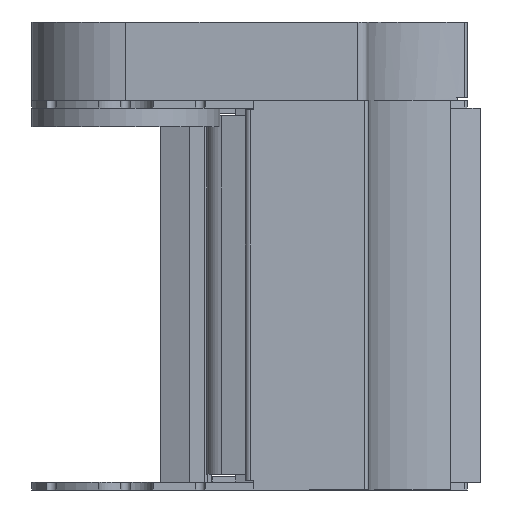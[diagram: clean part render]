
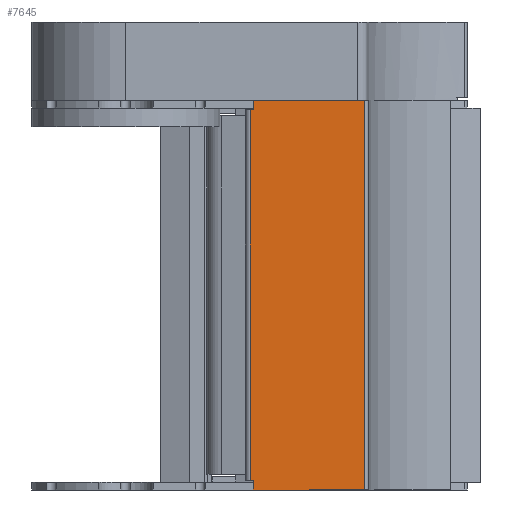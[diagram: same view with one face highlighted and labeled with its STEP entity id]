
A CAD part, front view. The second image highlights one B-rep face of the part: STEP entity #7645.
In plain terms, the highlighted planar face has unit normal (0, -1, 0).
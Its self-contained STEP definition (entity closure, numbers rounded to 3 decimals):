
#153 = EDGE_CURVE ( 'NONE', #2433, #10916, #3637, .T. ) ;
#221 = ORIENTED_EDGE ( 'NONE', *, *, #5271, .F. ) ;
#455 = VERTEX_POINT ( 'NONE', #1200 ) ;
#779 = DIRECTION ( 'NONE',  ( 0., -1., 0. ) ) ;
#1200 = CARTESIAN_POINT ( 'NONE',  ( -33.721, -61., 124.5 ) ) ;
#1232 = DIRECTION ( 'NONE',  ( 1., 0., 0. ) ) ;
#1619 = CARTESIAN_POINT ( 'NONE',  ( -33.721, -61., -124.5 ) ) ;
#1642 = VECTOR ( 'NONE', #10249, 1000. ) ;
#1778 = VERTEX_POINT ( 'NONE', #1619 ) ;
#1944 = EDGE_LOOP ( 'NONE', ( #3288, #12273, #5545, #4481, #7243, #221, #11204, #3000 ) ) ;
#1977 = CARTESIAN_POINT ( 'NONE',  ( 37.279, -61., -124.5 ) ) ;
#2056 = CARTESIAN_POINT ( 'NONE',  ( -33.721, -61., -118.5 ) ) ;
#2089 = CARTESIAN_POINT ( 'NONE',  ( -35.721, -61., 118.5 ) ) ;
#2154 = VECTOR ( 'NONE', #10473, 1000. ) ;
#2294 = DIRECTION ( 'NONE',  ( 1., 0., 0. ) ) ;
#2433 = VERTEX_POINT ( 'NONE', #3317 ) ;
#2667 = CARTESIAN_POINT ( 'NONE',  ( 37.279, -61., -305.911 ) ) ;
#2947 = VECTOR ( 'NONE', #2294, 1000. ) ;
#3000 = ORIENTED_EDGE ( 'NONE', *, *, #153, .F. ) ;
#3196 = VECTOR ( 'NONE', #9134, 1000. ) ;
#3288 = ORIENTED_EDGE ( 'NONE', *, *, #12664, .T. ) ;
#3317 = CARTESIAN_POINT ( 'NONE',  ( -33.721, -61., -118.5 ) ) ;
#3505 = LINE ( 'NONE', #2056, #3196 ) ;
#3637 = LINE ( 'NONE', #5805, #9691 ) ;
#3993 = EDGE_CURVE ( 'NONE', #455, #11503, #8231, .T. ) ;
#4168 = EDGE_CURVE ( 'NONE', #4421, #455, #6046, .T. ) ;
#4421 = VERTEX_POINT ( 'NONE', #4851 ) ;
#4424 = VECTOR ( 'NONE', #1232, 1000. ) ;
#4481 = ORIENTED_EDGE ( 'NONE', *, *, #3993, .F. ) ;
#4760 = EDGE_CURVE ( 'NONE', #10916, #10587, #5254, .T. ) ;
#4825 = LINE ( 'NONE', #2667, #2154 ) ;
#4849 = CARTESIAN_POINT ( 'NONE',  ( 37.279, -61., -305.911 ) ) ;
#4851 = CARTESIAN_POINT ( 'NONE',  ( -33.721, -61., 118.5 ) ) ;
#5191 = CARTESIAN_POINT ( 'NONE',  ( -35.721, -61., -305.911 ) ) ;
#5254 = LINE ( 'NONE', #5191, #1642 ) ;
#5271 = EDGE_CURVE ( 'NONE', #10587, #4421, #9320, .T. ) ;
#5414 = CARTESIAN_POINT ( 'NONE',  ( -33.721, -61., 118.5 ) ) ;
#5545 = ORIENTED_EDGE ( 'NONE', *, *, #5969, .T. ) ;
#5612 = CARTESIAN_POINT ( 'NONE',  ( 37.279, -61., 124.5 ) ) ;
#5805 = CARTESIAN_POINT ( 'NONE',  ( -33.721, -61., -118.5 ) ) ;
#5927 = VECTOR ( 'NONE', #7707, 1000. ) ;
#5942 = CARTESIAN_POINT ( 'NONE',  ( -35.721, -61., -118.5 ) ) ;
#5969 = EDGE_CURVE ( 'NONE', #10940, #11503, #4825, .T. ) ;
#6046 = LINE ( 'NONE', #5414, #9433 ) ;
#6522 = DIRECTION ( 'NONE',  ( 0., 0., 1. ) ) ;
#6661 = FACE_OUTER_BOUND ( 'NONE', #1944, .T. ) ;
#6737 = PLANE ( 'NONE',  #11990 ) ;
#7243 = ORIENTED_EDGE ( 'NONE', *, *, #4168, .F. ) ;
#7645 = ADVANCED_FACE ( 'NONE', ( #6661 ), #6737, .T. ) ;
#7707 = DIRECTION ( 'NONE',  ( 1., 0., 0. ) ) ;
#8231 = LINE ( 'NONE', #5612, #2947 ) ;
#8799 = DIRECTION ( 'NONE',  ( -1., 0., 0. ) ) ;
#9134 = DIRECTION ( 'NONE',  ( 0., 0., -1. ) ) ;
#9320 = LINE ( 'NONE', #12534, #5927 ) ;
#9433 = VECTOR ( 'NONE', #6522, 1000. ) ;
#9691 = VECTOR ( 'NONE', #8799, 1000. ) ;
#9865 = CARTESIAN_POINT ( 'NONE',  ( 37.279, -61., 124.5 ) ) ;
#9940 = EDGE_CURVE ( 'NONE', #1778, #10940, #12327, .T. ) ;
#10099 = CARTESIAN_POINT ( 'NONE',  ( 37.279, -61., -124.5 ) ) ;
#10249 = DIRECTION ( 'NONE',  ( 0., 0., 1. ) ) ;
#10473 = DIRECTION ( 'NONE',  ( 0., 0., 1. ) ) ;
#10587 = VERTEX_POINT ( 'NONE', #2089 ) ;
#10916 = VERTEX_POINT ( 'NONE', #5942 ) ;
#10940 = VERTEX_POINT ( 'NONE', #1977 ) ;
#11204 = ORIENTED_EDGE ( 'NONE', *, *, #4760, .F. ) ;
#11503 = VERTEX_POINT ( 'NONE', #9865 ) ;
#11711 = DIRECTION ( 'NONE',  ( 0., 0., -1. ) ) ;
#11990 = AXIS2_PLACEMENT_3D ( 'NONE', #4849, #779, #11711 ) ;
#12273 = ORIENTED_EDGE ( 'NONE', *, *, #9940, .T. ) ;
#12327 = LINE ( 'NONE', #10099, #4424 ) ;
#12534 = CARTESIAN_POINT ( 'NONE',  ( -35.721, -61., 118.5 ) ) ;
#12664 = EDGE_CURVE ( 'NONE', #2433, #1778, #3505, .T. ) ;
